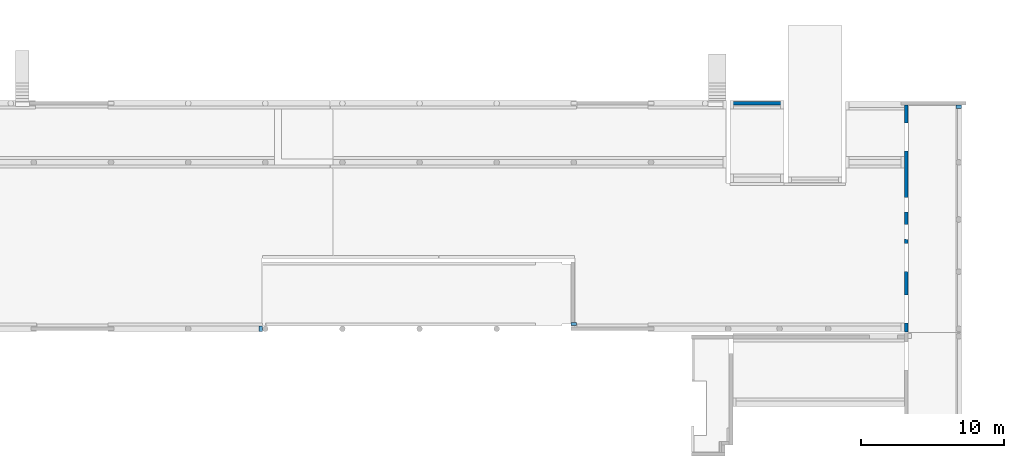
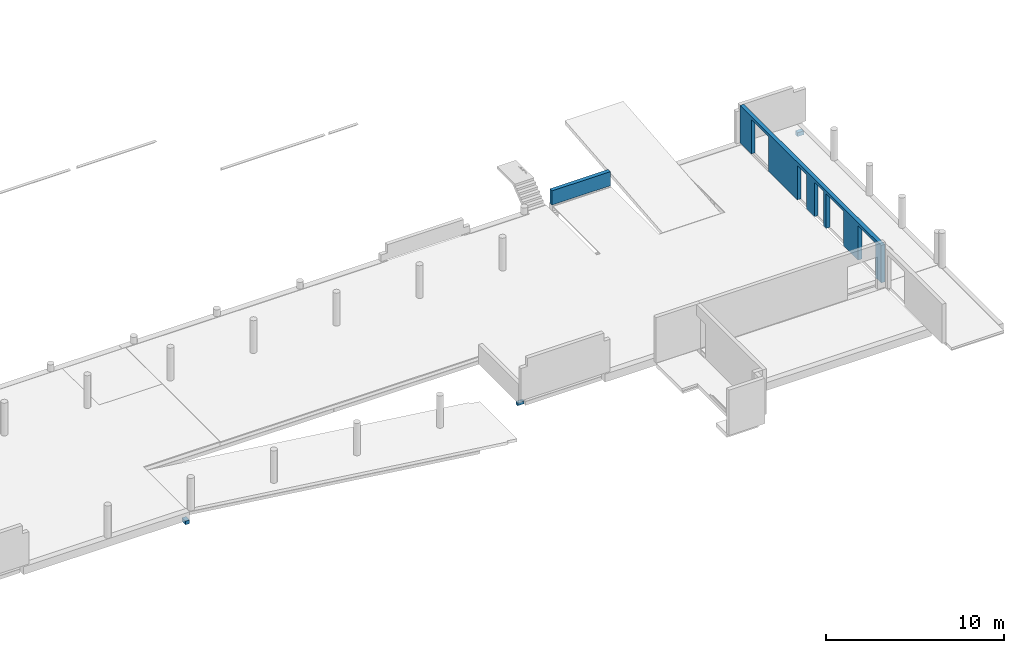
# One storey, part 6 of 9: 5 walls, 5 openings.
"""IFC2X3 building model written with IfcOpenShell, lengths in millimetres."""

import ifcopenshell
import ifcopenshell.guid

model = None  # the IFC model being written
_history = None  # IfcOwnerHistory: only IFC2X3 demands one
_inside = {}  # id of a spatial element -> (the spatial element, [elements in it])
_under = {}  # id of a project, library or spatial element -> (it, [spatial elements below it])
_declared = {}  # id of a project -> (the project, [libraries it declares])
_typed = {}  # id of a type object -> (the type object, [elements of that type])
_made_of = {}  # id of a material, layer set ... -> (it, [elements and type objects made of it])


def new_model(schema):
    """Start an empty IFC model of exactly this schema.

    Asked for "IFC4X3", IfcOpenShell would pick the latest addendum, in which some entities
    have other attributes; the version numbers below select the first issue.
    IFC2X3 requires an IfcOwnerHistory on every rooted entity: one is made here for all.
    """
    global model, _history
    if schema == "IFC4X3":
        model = ifcopenshell.file(schema_version=(4, 3, 0, 0))
    else:
        model = ifcopenshell.file(schema=schema)
    _inside.clear()
    _under.clear()
    _declared.clear()
    _typed.clear()
    _made_of.clear()
    _history = None
    if model.schema == "IFC2X3":
        org = make("IfcOrganization", Name="unknown")
        user = make(
            "IfcPersonAndOrganization",
            ThePerson=make("IfcPerson", FamilyName="unknown"),
            TheOrganization=org,
        )
        app = make(
            "IfcApplication",
            ApplicationDeveloper=org,
            Version="unknown",
            ApplicationFullName="unknown",
            ApplicationIdentifier="unknown",
        )
        _history = make(
            "IfcOwnerHistory",
            OwningUser=user,
            OwningApplication=app,
            ChangeAction="ADDED",
            CreationDate=0,
        )
    return model


def make(cls, **values):
    """One entity of the class cls with the attributes given. An attribute that is None is left unset."""
    return model.create_entity(
        cls, **{name: value for name, value in values.items() if value is not None}
    )


def entity(cls, *values):
    """Any entity or typed value of the class cls, its attributes in the order of the schema. None: left unset."""
    e = model.create_entity(cls)
    for i, value in enumerate(values):
        if value is not None:
            e[i] = value
    return e


def rooted(cls, **values):
    """An entity with a GlobalId (a new one), such as an element, a storey or a relation."""
    return make(cls, GlobalId=ifcopenshell.guid.new(), OwnerHistory=_history, **values)


def si_unit(unit_type, name, prefix=None):
    """IfcSIUnit, for example si_unit("LENGTHUNIT", "METRE", prefix="MILLI")."""
    return make("IfcSIUnit", UnitType=unit_type, Prefix=prefix, Name=name)


def converted_unit(unit_type, name, factor, base, dimensions=None, offset=None):
    """IfcConversionBasedUnit, such as the inch: factor (a typed value) times the base unit."""
    return make(
        "IfcConversionBasedUnit"
        if offset is None
        else "IfcConversionBasedUnitWithOffset",
        ConversionOffset=offset,
        Dimensions=None
        if dimensions is None
        else entity("IfcDimensionalExponents", *dimensions),
        UnitType=unit_type,
        Name=name,
        ConversionFactor=make(
            "IfcMeasureWithUnit", ValueComponent=factor, UnitComponent=base
        ),
    )


def derived_unit(unit_type, elements):
    """IfcDerivedUnit: a product of units, each with its exponent."""
    return make(
        "IfcDerivedUnit",
        Elements=[
            make("IfcDerivedUnitElement", Unit=unit, Exponent=power)
            for unit, power in elements
        ],
        UnitType=unit_type,
    )


def assignment(units):
    """IfcUnitAssignment: the units of a project."""
    return None if units is None else make("IfcUnitAssignment", Units=units)


def point(xyz):
    """IfcCartesianPoint."""
    return None if xyz is None else make("IfcCartesianPoint", Coordinates=xyz)


def direction(xyz):
    """IfcDirection."""
    return None if xyz is None else make("IfcDirection", DirectionRatios=xyz)


def frame(location, z_axis=None, x_axis=None):
    """IfcAxis2Placement3D, a coordinate frame: its origin and axes. An axis left out is left unset."""
    return make(
        "IfcAxis2Placement3D",
        Location=point(location),
        Axis=direction(z_axis),
        RefDirection=direction(x_axis),
    )


def frame_2d(location, x_axis=None):
    """IfcAxis2Placement2D, a coordinate frame in the plane: its origin and x axis."""
    return make(
        "IfcAxis2Placement2D", Location=point(location), RefDirection=direction(x_axis)
    )


def origin():
    """The frame at (0, 0, 0) with its axes left unset."""
    return frame((0.0, 0.0, 0.0))


def place(relative_to, where):
    """IfcLocalPlacement: puts the frame where relative to a parent placement (None: the world)."""
    return make(
        "IfcLocalPlacement", PlacementRelTo=relative_to, RelativePlacement=where
    )


def context(
    kind, dimensions, precision=None, world=None, true_north=None, identifier=None
):
    """IfcGeometricRepresentationContext, for example the 3D "Model" context."""
    return make(
        "IfcGeometricRepresentationContext",
        ContextIdentifier=identifier,
        ContextType=kind,
        CoordinateSpaceDimension=dimensions,
        Precision=precision,
        WorldCoordinateSystem=world,
        TrueNorth=true_north,
    )


def subcontext(parent, identifier, kind, view, scale=None):
    """IfcGeometricRepresentationSubContext, for example "Body" below "Model"."""
    return make(
        "IfcGeometricRepresentationSubContext",
        ContextIdentifier=identifier,
        ContextType=kind,
        ParentContext=parent,
        TargetScale=scale,
        TargetView=view,
    )


def project(units=None, contexts=None):
    """IfcProject with its units and contexts."""
    return rooted(
        "IfcProject",
        Name="project",
        RepresentationContexts=contexts,
        UnitsInContext=assignment(units),
    )


def spatial(cls, under=None, at=None, **own):
    """A site, building, storey or space (cls), placed at a placement, below another one or the project."""
    s = rooted(cls, ObjectPlacement=at, **own)
    if under is not None:
        _under.setdefault(under.id(), (under, []))[1].append(s)
    return s


def profile(cls, at=None, kind="AREA", **sizes):
    """A parametric profile (cls). Its sizes go by their IFC names, for example OverallWidth=200.0."""
    return make(cls, ProfileType=kind, Position=at, **sizes)


def rectangle(**sizes):
    """IfcRectangleProfileDef."""
    return profile("IfcRectangleProfileDef", **sizes)


def extrude(swept, where, along, depth):
    """IfcExtrudedAreaSolid: the profile swept, set in the frame where, extruded along a direction by depth."""
    return make(
        "IfcExtrudedAreaSolid",
        SweptArea=swept,
        Position=where,
        ExtrudedDirection=direction(along),
        Depth=depth,
    )


def faces_of(points, faces, orient=None, outer=None):
    """IfcFace entities. A face is a list of loops; a loop is a list of indices into points, from 0.

    orient and outer hold one flag for each loop. By default every Orientation is true, the
    first loop of a face is its IfcFaceOuterBound and the others are IfcFaceBound.
    """
    made = []
    for i, loops in enumerate(faces):
        bounds = []
        for j, loop in enumerate(loops):
            is_outer = j == 0 if outer is None else outer[i][j]
            bounds.append(
                make(
                    "IfcFaceOuterBound" if is_outer else "IfcFaceBound",
                    Bound=make("IfcPolyLoop", Polygon=[points[k] for k in loop]),
                    Orientation=True if orient is None else orient[i][j],
                )
            )
        made.append(make("IfcFace", Bounds=bounds))
    return made


def faceted_brep(points, faces, orient=None, outer=None, voids=None):
    """IfcFacetedBrep: a solid bounded by flat faces; with voids (closed shells), ...WithVoids."""
    shared = [point(p) for p in points]
    hull = make("IfcClosedShell", CfsFaces=faces_of(shared, faces, orient, outer))
    if voids is None:
        return make("IfcFacetedBrep", Outer=hull)
    return make(
        "IfcFacetedBrepWithVoids",
        Outer=hull,
        Voids=[
            make(cls, CfsFaces=faces_of(shared, fs, o, b)) for cls, fs, o, b in voids
        ],
    )


def shape(context_of_items, identifier, shape_type, items):
    """IfcShapeRepresentation: the items that make up one representation, for example the "Body"."""
    return make(
        "IfcShapeRepresentation",
        ContextOfItems=context_of_items,
        RepresentationIdentifier=identifier,
        RepresentationType=shape_type,
        Items=items,
    )


def material(Name=None, Category=None):
    """IfcMaterial."""
    return make("IfcMaterial", Name=Name, Category=Category)


def layer(
    of_material, thickness, ventilated=None, Name=None, Category=None, Priority=None
):
    """IfcMaterialLayer: one layer of a wall or slab, of a material (None: an air gap)."""
    return make(
        "IfcMaterialLayer",
        Material=of_material,
        LayerThickness=thickness,
        IsVentilated=ventilated,
        Name=Name,
        Category=Category,
        Priority=Priority,
    )


def layer_set(layers, Name=None):
    """IfcMaterialLayerSet."""
    return make("IfcMaterialLayerSet", MaterialLayers=layers, LayerSetName=Name)


def layer_usage(for_layer_set, set_direction, sense, offset, extent=None):
    """IfcMaterialLayerSetUsage: how a layer set lies in its element."""
    return make(
        "IfcMaterialLayerSetUsage",
        ForLayerSet=for_layer_set,
        LayerSetDirection=set_direction,
        DirectionSense=sense,
        OffsetFromReferenceLine=offset,
        ReferenceExtent=extent,
    )


def made_of(thing, what):
    """Note that an element or type object is made of a material, layer set ...; save() writes the relation."""
    if what is not None:
        _made_of.setdefault(what.id(), (what, []))[1].append(thing)
    return thing


def type_object(cls, material=None, **own):
    """A type object (cls), such as IfcWallType, which elements share."""
    return made_of(rooted(cls, **own), material)


def element(
    cls,
    number,
    at=None,
    inside=None,
    cuts=None,
    type_object=None,
    material=None,
    context=None,
    identifier="Body",
    shape_type=None,
    held_by="IfcProductDefinitionShape",
    body=None,
    shapes=None,
    **own,
):
    """One element of the class cls, such as IfcWall. Its Tag is "e" and its number.

    at: its placement. inside: the storey or other place that contains it. cuts: it is an
    opening in that element (IfcRelVoidsElement). A single representation is given by context,
    identifier, shape_type and body (its items); several are given by shapes. held_by: the class
    of the entity that holds the representations. save() writes the other relations.
    """
    e = rooted(cls, Tag="e%d" % number, ObjectPlacement=at, **own)
    if body is not None:
        shapes = [shape(context, identifier, shape_type, body)]
    if shapes is not None:
        e.Representation = make(held_by, Representations=shapes)
    if inside is not None:
        _inside.setdefault(inside.id(), (inside, []))[1].append(e)
    if cuts is not None:
        rooted(
            "IfcRelVoidsElement", RelatingBuildingElement=cuts, RelatedOpeningElement=e
        )
    if type_object is not None:
        _typed.setdefault(type_object.id(), (type_object, []))[1].append(e)
    return made_of(e, material)


def aggregate(whole, parts):
    """IfcRelAggregates: a whole, such as a stair, and the parts it consists of."""
    return rooted("IfcRelAggregates", RelatingObject=whole, RelatedObjects=parts)


def save(model, path):
    """Write the relations noted so far, then the file.

    IfcRelAggregates (storeys below a building ...), IfcRelContainedInSpatialStructure (elements
    in a storey), IfcRelDefinesByType, IfcRelAssociatesMaterial and IfcRelDeclares: one each for
    every whole, place, type object, material and project.
    """
    for whole, parts in _under.values():
        aggregate(whole, parts)
    for where, things in _inside.values():
        rooted(
            "IfcRelContainedInSpatialStructure",
            RelatedElements=things,
            RelatingStructure=where,
        )
    for kind, things in _typed.values():
        rooted("IfcRelDefinesByType", RelatedObjects=things, RelatingType=kind)
    for what, things in _made_of.values():
        rooted("IfcRelAssociatesMaterial", RelatedObjects=things, RelatingMaterial=what)
    for by, libraries in _declared.values():
        rooted("IfcRelDeclares", RelatingContext=by, RelatedDefinitions=libraries)
    model.write(path)


model = new_model("IFC2X3")

# Units and contexts
model_context = context("Model", 3, precision=0.01, world=origin(), true_north=direction((6.12303176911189e-17, 1.0)))
body_context = subcontext(model_context, "Body", "Model", "MODEL_VIEW")
ifc_project = project(units=[si_unit("LENGTHUNIT", "METRE", prefix="MILLI"), si_unit("AREAUNIT", "SQUARE_METRE"), si_unit("VOLUMEUNIT", "CUBIC_METRE"), converted_unit("PLANEANGLEUNIT", "DEGREE", entity("IfcRatioMeasure", 0.0174532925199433), si_unit("PLANEANGLEUNIT", "RADIAN"), dimensions=[0, 0, 0, 0, 0, 0, 0]), si_unit("MASSUNIT", "GRAM", prefix="KILO"), derived_unit("MASSDENSITYUNIT", [(si_unit("MASSUNIT", "GRAM", prefix="KILO"), 1), (si_unit("LENGTHUNIT", "METRE"), -3)]), si_unit("TIMEUNIT", "SECOND"), si_unit("FREQUENCYUNIT", "HERTZ"), si_unit("THERMODYNAMICTEMPERATUREUNIT", "DEGREE_CELSIUS"), derived_unit("THERMALTRANSMITTANCEUNIT", [(si_unit("MASSUNIT", "GRAM", prefix="KILO"), 1), (si_unit("THERMODYNAMICTEMPERATUREUNIT", "KELVIN"), -1), (si_unit("TIMEUNIT", "SECOND"), -3)]), derived_unit("VOLUMETRICFLOWRATEUNIT", [(si_unit("LENGTHUNIT", "METRE"), 3), (si_unit("TIMEUNIT", "SECOND"), -1)]), si_unit("ELECTRICCURRENTUNIT", "AMPERE"), si_unit("ELECTRICVOLTAGEUNIT", "VOLT"), si_unit("POWERUNIT", "WATT"), si_unit("FORCEUNIT", "NEWTON", prefix="KILO"), si_unit("ILLUMINANCEUNIT", "LUX"), si_unit("LUMINOUSFLUXUNIT", "LUMEN"), si_unit("LUMINOUSINTENSITYUNIT", "CANDELA"), derived_unit("USERDEFINED", [(si_unit("MASSUNIT", "GRAM", prefix="KILO"), -1), (si_unit("LENGTHUNIT", "METRE"), -2), (si_unit("TIMEUNIT", "SECOND"), 3), (si_unit("LUMINOUSFLUXUNIT", "LUMEN"), 1)]), derived_unit("LINEARVELOCITYUNIT", [(si_unit("LENGTHUNIT", "METRE"), 1), (si_unit("TIMEUNIT", "SECOND"), -1)]), si_unit("PRESSUREUNIT", "PASCAL"), derived_unit("USERDEFINED", [(si_unit("LENGTHUNIT", "METRE"), -2), (si_unit("MASSUNIT", "GRAM", prefix="KILO"), 1), (si_unit("TIMEUNIT", "SECOND"), -2)])], contexts=[model_context])

# Site, building, storey
site_placement = place(None, origin())
site = spatial("IfcSite", under=ifc_project, at=site_placement, Name="Default", CompositionType="ELEMENT")
building_placement = place(site_placement, origin())
building = spatial("IfcBuilding", under=site, at=building_placement, Name="niet gebruiken", CompositionType="ELEMENT")
storey_placement = place(building_placement, frame((0.0, 0.0, 2770.0)))
storey = spatial("IfcBuildingStorey", under=building, at=storey_placement, Name="00a eerste tussenverdieping", CompositionType="ELEMENT", Elevation=2770.00000000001)

# Wall, openings
ifc_material = material(Name="NLRS_f2_beton prefab")
ifc_layer_1 = layer(ifc_material, 250.0)
ifc_layer_set_1 = layer_set([ifc_layer_1], Name="Basic Wall:NLRS_21.21_WA_beton prefab d=250_gen")
ifc_layer_usage_1 = layer_usage(ifc_layer_set_1, "AXIS2", "NEGATIVE", 125.0)
wall_type_1 = type_object("IfcWallType", Name="Basic Wall:NLRS_21.21_WA_beton prefab d=250_gen", PredefinedType="STANDARD", material=ifc_layer_set_1)
wall_1_placement = place(storey_placement, frame((115075.0, 8966.0, 20.0), z_axis=(0.0, 0.0, 1.0), x_axis=(0.0, 1.0, 0.0)))
wall_1 = element("IfcWallStandardCase", 1, at=wall_1_placement, inside=storey, type_object=wall_type_1, material=ifc_layer_usage_1, Name="Basic Wall:NLRS_21.21_WA_beton prefab d=250_gen", ObjectType="Basic Wall:NLRS_21.21_WA_beton prefab d=250_gen", context=body_context, shape_type="SweptSolid", body=[
    extrude(rectangle(XDim=15885.0, YDim=250.000000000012, at=frame_2d((7942.50000000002, 3.94351218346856e-12), x_axis=(-1.0, 0.0))), origin(), (0.0, 0.0, 1.0), 2580.0),
])
opening_1_placement = place(wall_1_placement, frame((621.0, 125.0, 0.0)))
element("IfcOpeningElement", 2, at=opening_1_placement, cuts=wall_1, Name="Basic Wall:NLRS_21.21_WA_beton prefab d=250_gen", ObjectType="Opening", context=body_context, shape_type="Brep", body=[
    faceted_brep([(12.0, 0.0, 2365.0), (1965.0, 0.0, 2365.0), (1965.0, 0.0, 0.0), (12.0, 0.0, 0.0), (0.0, -250.0, 2377.0), (0.0, -250.0, 0.0), (1977.0, -250.0, 0.0), (1977.0, -250.0, 2377.0)], [[[0, 1, 2, 3]], [[4, 5, 6, 7]], [[4, 7, 1, 0]], [[7, 6, 2, 1]], [[6, 5, 3, 2]], [[5, 4, 0, 3]]]),
])
opening_2_placement = place(wall_1_placement, frame((12656.0, 125.0, 0.0)))
element("IfcOpeningElement", 3, at=opening_2_placement, cuts=wall_1, Name="Basic Wall:NLRS_21.21_WA_beton prefab d=250_gen", ObjectType="Opening", context=body_context, shape_type="Brep", body=[
    faceted_brep([(12.0, 0.0, 2365.0), (1965.0, 0.0, 2365.0), (1965.0, 0.0, 0.0), (12.0, 0.0, 0.0), (0.0, -250.0, 2377.0), (0.0, -250.0, 0.0), (1977.0, -250.0, 0.0), (1977.0, -250.0, 2377.0)], [[[0, 1, 2, 3]], [[4, 5, 6, 7]], [[4, 7, 1, 0]], [[7, 6, 2, 1]], [[6, 5, 3, 2]], [[5, 4, 0, 3]]]),
])
opening_3_placement = place(wall_1_placement, frame((4219.0, 125.0, 0.0)))
element("IfcOpeningElement", 4, at=opening_3_placement, cuts=wall_1, Name="Basic Wall:NLRS_21.21_WA_beton prefab d=250_gen", ObjectType="Opening", context=body_context, shape_type="Brep", body=[
    faceted_brep([(12.0, 0.0, 2365.0), (1965.0, 0.0, 2365.0), (1965.0, 0.0, 0.0), (12.0, 0.0, 0.0), (0.0, -250.0, 2377.0), (0.0, -250.0, 0.0), (1977.0, -250.0, 0.0), (1977.0, -250.0, 2377.0)], [[[0, 1, 2, 3]], [[4, 5, 6, 7]], [[4, 7, 1, 0]], [[7, 6, 2, 1]], [[6, 5, 3, 2]], [[5, 4, 0, 3]]]),
])
opening_4_placement = place(wall_1_placement, frame((6488.0, 125.0, 0.0)))
element("IfcOpeningElement", 5, at=opening_4_placement, cuts=wall_1, Name="Basic Wall:NLRS_21.21_WA_beton prefab d=250_gen", ObjectType="Opening", context=body_context, shape_type="Brep", body=[
    faceted_brep([(12.0, 0.0, 2365.0), (1028.0, 0.0, 2365.0), (1028.0, 0.0, 0.0), (12.0, 0.0, 0.0), (0.0, -250.0, 2377.0), (0.0, -250.0, 0.0), (1040.0, -250.0, 0.0), (1040.0, -250.0, 2377.0)], [[[0, 1, 2, 3]], [[4, 5, 6, 7]], [[4, 7, 1, 0]], [[7, 6, 2, 1]], [[6, 5, 3, 2]], [[5, 4, 0, 3]]]),
])
opening_5_placement = place(wall_1_placement, frame((8388.0, 125.0, 0.0)))
element("IfcOpeningElement", 6, at=opening_5_placement, cuts=wall_1, Name="Basic Wall:NLRS_21.21_WA_beton prefab d=250_gen", ObjectType="Opening", context=body_context, shape_type="Brep", body=[
    faceted_brep([(12.0, 0.0, 2365.0), (1028.0, 0.0, 2365.0), (1028.0, 0.0, 0.0), (12.0, 0.0, 0.0), (0.0, -250.0, 2377.0), (0.0, -250.0, 0.0), (1040.0, -250.0, 0.0), (1040.0, -250.0, 2377.0)], [[[0, 1, 2, 3]], [[4, 5, 6, 7]], [[4, 7, 1, 0]], [[7, 6, 2, 1]], [[6, 5, 3, 2]], [[5, 4, 0, 3]]]),
])

# Walls
ifc_layer_2 = layer(ifc_material, 250.0)
ifc_layer_set_2 = layer_set([ifc_layer_2], Name="Basic Wall:NLRS_22.21_WA_beton prefab d=250_gen")
ifc_layer_usage_2 = layer_usage(ifc_layer_set_2, "AXIS2", "NEGATIVE", 125.0)
wall_type_2 = type_object("IfcWallType", Name="Basic Wall:NLRS_22.21_WA_beton prefab d=250_gen", PredefinedType="STANDARD", material=ifc_layer_set_2)
wall_2_placement = place(storey_placement, frame((102725.0, 24976.0, 30.0)))
element("IfcWallStandardCase", 7, at=wall_2_placement, inside=storey, type_object=wall_type_2, material=ifc_layer_usage_2, Name="Basic Wall:NLRS_22.21_WA_beton prefab d=250_gen", ObjectType="Basic Wall:NLRS_22.21_WA_beton prefab d=250_gen", context=body_context, shape_type="SweptSolid", body=[
    extrude(rectangle(XDim=3800.0, YDim=250.000000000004, at=frame_2d((1900.0, -1.27897692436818e-13), x_axis=(-1.0, 0.0))), origin(), (0.0, 0.0, 1.0), 970.000000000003),
])
wall_type_3 = type_object("IfcWallType", Name="NLRS_21.21_SF_WPB_oplegnok prefabbeton_gen:200x200", PredefinedType="NOTDEFINED", material=ifc_material)
wall_3_placement = place(storey_placement, frame((91600.0, 9433.49999999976, -530.0)))
element("IfcWall", 8, at=wall_3_placement, inside=storey, type_object=wall_type_3, material=ifc_material, Name="NLRS_21.21_SF_WPB_oplegnok prefabbeton_gen:200x200", ObjectType="NLRS_21.21_SF_WPB_oplegnok prefabbeton_gen:200x200", context=body_context, shape_type="SweptSolid", body=[
    extrude(rectangle(XDim=200.0, YDim=400.000162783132, at=frame_2d((5.47117906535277e-13, 0.0), x_axis=(1.0, 0.0))), frame((200.000081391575, 100.0, 0.0), z_axis=(0.0, 0.0, 1.0), x_axis=(0.0, -1.0, 0.0)), (0.0, 0.0, 1.0), 199.999999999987),
])
wall_type_4 = type_object("IfcWallType", Name="NLRS_21.21_SF_WPB_oplegnok prefabbeton_gen:250x270", PredefinedType="NOTDEFINED", material=ifc_material)
wall_4_placement = place(storey_placement, frame((118550.0, 24601.0, -665.0)))
element("IfcWall", 9, at=wall_4_placement, inside=storey, type_object=wall_type_4, material=ifc_material, Name="NLRS_21.21_SF_WPB_oplegnok prefabbeton_gen:250x270", ObjectType="NLRS_21.21_SF_WPB_oplegnok prefabbeton_gen:250x270", context=body_context, shape_type="SweptSolid", body=[
    extrude(rectangle(XDim=249.999999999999, YDim=399.999999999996, at=frame_2d((2.16715534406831e-12, 1.73372427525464e-11), x_axis=(1.0, 0.0))), frame((200.0, 125.0, 0.0), z_axis=(0.0, 0.0, 1.0), x_axis=(0.0, -1.0, 0.0)), (0.0, 0.0, 1.0), 270.000000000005),
])
wall_type_5 = type_object("IfcWallType", Name="NLRS_21.21_SF_WPB_oplegnok prefabbeton_gen:250x250", PredefinedType="NOTDEFINED", material=ifc_material)
wall_5_placement = place(storey_placement, frame((69750.0, 8996.0, -790.0), z_axis=(0.0, 0.0, 1.0), x_axis=(0.0, 1.0, 0.0)))
element("IfcWall", 10, at=wall_5_placement, inside=storey, type_object=wall_type_5, material=ifc_material, Name="NLRS_21.21_SF_WPB_oplegnok prefabbeton_gen:250x250", ObjectType="NLRS_21.21_SF_WPB_oplegnok prefabbeton_gen:250x250", context=body_context, shape_type="SweptSolid", body=[
    extrude(rectangle(XDim=399.999999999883, YDim=250.000000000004, at=frame_2d((0.0, -4.33431068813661e-12), x_axis=(1.0, 0.0))), frame((200.0, -125.0, 0.0)), (0.0, 0.0, 1.0), 250.000000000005),
])

save(model, "model.ifc")
